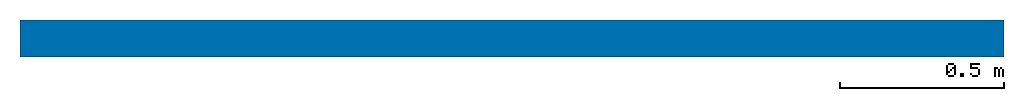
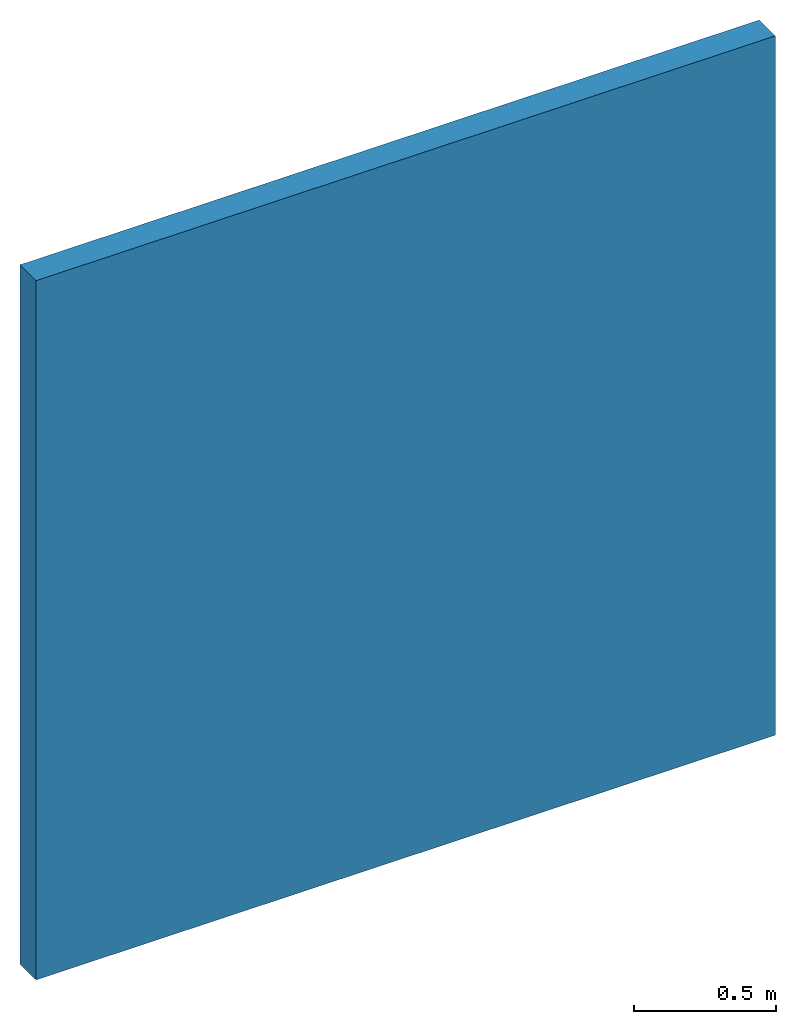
# One storey: 1 wall.
"""IFC2X3 building model written with IfcOpenShell, lengths in millimetres."""

from ifc_helpers import new_model, entity, si_unit, converted_unit, derived_unit, direction, frame, frame_2d, origin, place, context, subcontext, project, spatial, rectangle, extrude, material, layer, layer_set, layer_usage, type_object, element, save


model = new_model("IFC2X3")

# Units and contexts
model_context = context("Model", 3, precision=0.01, world=origin(), true_north=direction((6.12303176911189e-17, 1.0)))
body_context = subcontext(model_context, "Body", "Model", "MODEL_VIEW")
ifc_project = project(units=[si_unit("LENGTHUNIT", "METRE", prefix="MILLI"), si_unit("AREAUNIT", "SQUARE_METRE"), si_unit("VOLUMEUNIT", "CUBIC_METRE"), converted_unit("PLANEANGLEUNIT", "DEGREE", entity("IfcRatioMeasure", 0.0174532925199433), si_unit("PLANEANGLEUNIT", "RADIAN"), dimensions=[0, 0, 0, 0, 0, 0, 0]), si_unit("MASSUNIT", "GRAM", prefix="KILO"), si_unit("TIMEUNIT", "SECOND"), si_unit("FREQUENCYUNIT", "HERTZ"), si_unit("THERMODYNAMICTEMPERATUREUNIT", "DEGREE_CELSIUS"), derived_unit("THERMALTRANSMITTANCEUNIT", [(si_unit("MASSUNIT", "GRAM", prefix="KILO"), 1), (si_unit("THERMODYNAMICTEMPERATUREUNIT", "KELVIN"), -1), (si_unit("TIMEUNIT", "SECOND"), -3)]), derived_unit("VOLUMETRICFLOWRATEUNIT", [(si_unit("LENGTHUNIT", "METRE"), 3), (si_unit("TIMEUNIT", "SECOND"), -1)]), si_unit("ELECTRICCURRENTUNIT", "AMPERE"), si_unit("ELECTRICVOLTAGEUNIT", "VOLT"), si_unit("POWERUNIT", "WATT"), si_unit("FORCEUNIT", "NEWTON", prefix="KILO"), si_unit("ILLUMINANCEUNIT", "LUX"), si_unit("LUMINOUSFLUXUNIT", "LUMEN"), si_unit("LUMINOUSINTENSITYUNIT", "CANDELA"), derived_unit("USERDEFINED", [(si_unit("MASSUNIT", "GRAM", prefix="KILO"), -1), (si_unit("LENGTHUNIT", "METRE"), -2), (si_unit("TIMEUNIT", "SECOND"), 3), (si_unit("LUMINOUSFLUXUNIT", "LUMEN"), 1)]), derived_unit("LINEARVELOCITYUNIT", [(si_unit("LENGTHUNIT", "METRE"), 1), (si_unit("TIMEUNIT", "SECOND"), -1)]), si_unit("PRESSUREUNIT", "PASCAL"), derived_unit("USERDEFINED", [(si_unit("LENGTHUNIT", "METRE"), -2), (si_unit("MASSUNIT", "GRAM", prefix="KILO"), 1), (si_unit("TIMEUNIT", "SECOND"), -2)])], contexts=[model_context])

# Site, building, storey
site_placement = place(None, origin())
site = spatial("IfcSite", under=ifc_project, at=site_placement, Name="Default", CompositionType="ELEMENT")
building_placement = place(site_placement, origin())
building = spatial("IfcBuilding", under=site, at=building_placement, CompositionType="ELEMENT")
storey_placement = place(building_placement, origin())
storey = spatial("IfcBuildingStorey", under=building, at=storey_placement, Name="Уровень 1", CompositionType="ELEMENT", Elevation=0.0)

# Wall
ifc_material_1 = material(Name="КНАУФ-лист")
ifc_layer_1 = layer(ifc_material_1, 12.5)
ifc_material_2 = material(Name="КНАУФ-профиль+мин.вата 75@600mm")
ifc_layer_2 = layer(ifc_material_2, 75.0)
ifc_material_3 = material(Name="Luft")
ifc_layer_3 = layer(ifc_material_3, 25.0)
ifc_layer_set = layer_set([ifc_layer_1, ifc_layer_2, ifc_layer_3], Name="Базовая стена:Облицовка КНАУФ С625 Применение внутри здания ПС100х50 ПН100х40 шаг 400 ГСП-А 12.5")
ifc_layer_usage = layer_usage(ifc_layer_set, "AXIS2", "NEGATIVE", 56.25)
wall_type = type_object("IfcWallType", Name="Базовая стена:Облицовка КНАУФ С625 Применение внутри здания ПС100х50 ПН100х40 шаг 400 ГСП-А 12.5", PredefinedType="STANDARD", material=ifc_layer_set)
wall_placement = place(storey_placement, frame((4449.82216706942, 1613.93915944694, 0.0)))
element("IfcWallStandardCase", 1, at=wall_placement, inside=storey, type_object=wall_type, material=ifc_layer_usage, Name="Базовая стена:Облицовка КНАУФ С625 Применение внутри здания ПС100х50 ПН100х40 шаг 400 ГСП-А 12.5", ObjectType="Базовая стена:Облицовка КНАУФ С625 Применение внутри здания ПС100х50 ПН100х40 шаг 400 ГСП-А 12.5", context=body_context, shape_type="SweptSolid", body=[
    extrude(rectangle(XDim=3000.0, YDim=112.5, at=frame_2d((1500.0, 4.2632564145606e-14), x_axis=(-1.0, 0.0))), origin(), (0.0, 0.0, 1.0), 3000.0),
])

save(model, "model.ifc")
